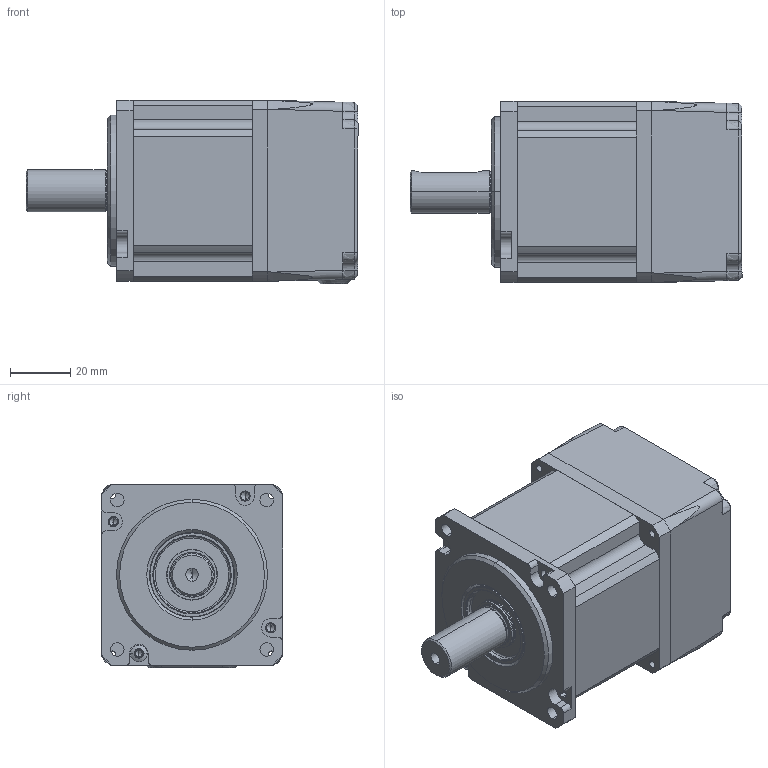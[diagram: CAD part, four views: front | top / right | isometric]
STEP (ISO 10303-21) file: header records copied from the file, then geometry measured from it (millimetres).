
FILE_DESCRIPTION (( 'STEP AP214' ), '1' );
FILE_NAME ('iNX60 with iNetic Encoder.STEP', '2024-10-29T12:07:54', ( '' ), ( '' ), 'SwSTEP 2.0', 'SolidWorks 2024', '' );
FILE_SCHEMA (( 'AUTOMOTIVE_DESIGN' ));
Length unit declared in the file: millimetre
Products named in the file (15): iNX60 with iNetic Encoder; RMH06A3A00 Magnet Holder_Shortened Assembly - 9mm; 060 iNetic Encoder - Drive Unit - v7; 10000602 IMR100 ROTOR ASSEMBLY_10000192 Shaft; 10000118 60_lipseal; 10000213 060 FEF_FINAL_reduced flange; 060 Drive Assembly_WITH REF; 10000158 060_HOUSING_M3_NEW; 10000205 060 Potted Stator Assembly_1U; 10000190 060_REF_Syn_MOLD_INSERT; 10000192 060 ROTOR SHAFT UNIVERSAL_1U; hexalobular socket pan head_iso_ISO 14583 - M3 x 12 x 11 - 4.8-N; Cable Grommet; RMH06A3A00 Magnet; 10000206 060 Rotor Full Assembly_1U Motor Only
Assembly tree (12 placements, depth 4):
  iNX60 with iNetic Encoder
    10000205 060 Potted Stator Assembly_1U
      10000158 060_HOUSING_M3_NEW
      10000213 060 FEF_FINAL_reduced flange
      10000190 060_REF_Syn_MOLD_INSERT
      hexalobular socket pan head_iso_ISO 14583 - M3 x 12 x 11 - 4.8-N
    10000206 060 Rotor Full Assembly_1U Motor Only
      10000602 IMR100 ROTOR ASSEMBLY_10000192 Shaft
        10000192 060 ROTOR SHAFT UNIVERSAL_1U
    10000118 60_lipseal
    060 Drive Assembly_WITH REF
      060 iNetic Encoder - Drive Unit - v7
      Cable Grommet
  RMH06A3A00 Magnet Holder_Shortened Assembly - 9mm
  RMH06A3A00 Magnet
Bounding box: 110 x 60 x 60.82 mm (x, y, z)
Volume: 101878.5 mm3; surface area: 67938.2 mm2
Topology: 8 solids, 8 shells, 708 faces, 1786 edges, 1117 vertices
Faces by surface type: cylinder 299, plane 195, cone 117, torus 73, bspline 22, sphere 2
Entity records: 23609 total; most frequent: CARTESIAN_POINT 5940, DIRECTION 3825, ORIENTED_EDGE 3524, EDGE_CURVE 1762, AXIS2_PLACEMENT_3D 1536, VERTEX_POINT 1117, CIRCLE 831, EDGE_LOOP 813
